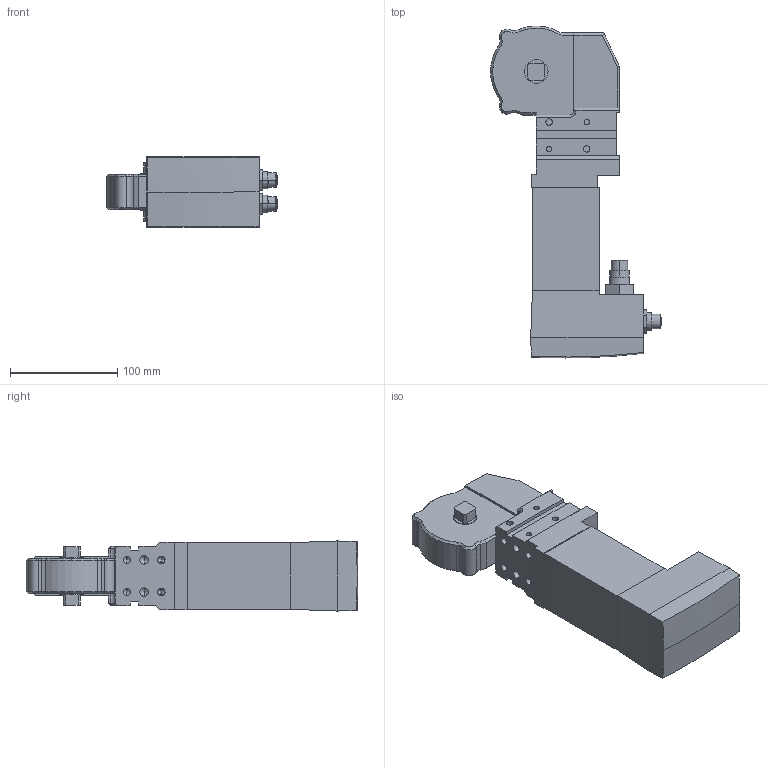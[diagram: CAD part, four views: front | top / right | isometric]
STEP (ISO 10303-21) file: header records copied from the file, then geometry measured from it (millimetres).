
FILE_DESCRIPTION((''),'2;1');
FILE_NAME('001_DESTACO_92W_1_ASM','2024-03-07T',('SYSTEM'),(''),'PRO/ENGINEER BY PARAMETRIC TECHNOLOGY CORPORATION, 2016360','PRO/ENGINEER BY PARAMETRIC TECHNOLOGY CORPORATION, 2016360','');
FILE_SCHEMA(('AUTOMOTIVE_DESIGN { 1 0 10303 214 1 1 1 1 }'));
Length unit declared in the file: millimetre
Products named in the file (5): 8GL_8GR-242-1_8MA-537-1; 92W-1_MOTOR_02_02; 8BF-676-1; SET_SCREW; 001_DESTACO_92W_1_ASM
Assembly tree (4 placements, depth 2):
  001_DESTACO_92W_1_ASM
    8GL_8GR-242-1_8MA-537-1
    92W-1_MOTOR_02_02
    8BF-676-1
    SET_SCREW
Bounding box: 159.1 x 308.96 x 65.23 mm (x, y, z)
Volume: 1371086.8 mm3; surface area: 127602.2 mm2
Topology: 4 solids, 4 shells, 440 faces, 1087 edges, 674 vertices
Faces by surface type: plane 206, cylinder 167, cone 53, sphere 14
Entity records: 16258 total; most frequent: DIRECTION 2343, CARTESIAN_POINT 2236, ORIENTED_EDGE 2078, EDGE_CURVE 1039, PRESENTATION_STYLE_ASSIGNMENT 1002, STYLED_ITEM 986, CURVE_STYLE 983, AXIS2_PLACEMENT_3D 866
